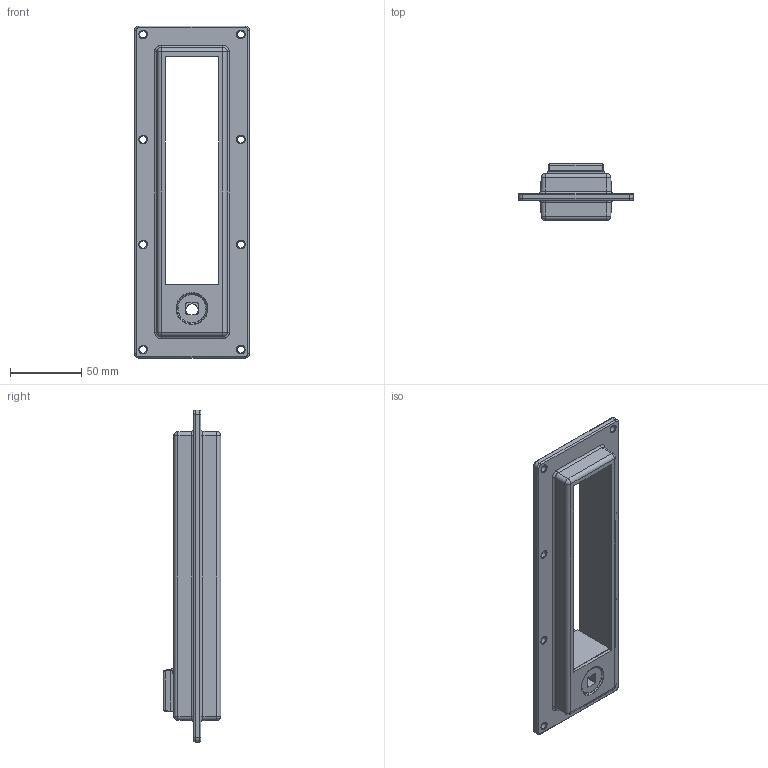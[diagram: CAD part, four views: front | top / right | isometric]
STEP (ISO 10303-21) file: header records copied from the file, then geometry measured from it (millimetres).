
FILE_DESCRIPTION( ('This file contains a STEP AP42 implementation' ,'as created by ZW3D STEP Interface translator.') ,'2;1' );
FILE_NAME( '161601 KML 16-16.stp' ,'23 415.133957', (''), ('ZWCAD Software Co.'), 'Version 1.0', 'ZW3D to STEP translator', '' );
FILE_SCHEMA(('AUTOMOTIVE_DESIGN { 1 0 10303 214 1 1 1 1 }'));
Length unit declared in the file: millimetre
Products named in the file (2): 0; 161601 KML 16-16
Bounding box: 80.5 x 40.37 x 233 mm (x, y, z)
Volume: 158207.1 mm3; surface area: 61817.8 mm2
Topology: 1 solids, 1 shells, 196 faces, 544 edges, 341 vertices
Faces by surface type: cylinder 77, plane 61, bspline 56, cone 2
Full cylindrical faces by diameter (mm): 5 x8, 8.5 x1
Entity records: 9127 total; most frequent: CARTESIAN_POINT 4549, ORIENTED_EDGE 1058, DIRECTION 746, EDGE_CURVE 529, VERTEX_POINT 341, AXIS2_PLACEMENT_3D 260, VECTOR 226, LINE 226
